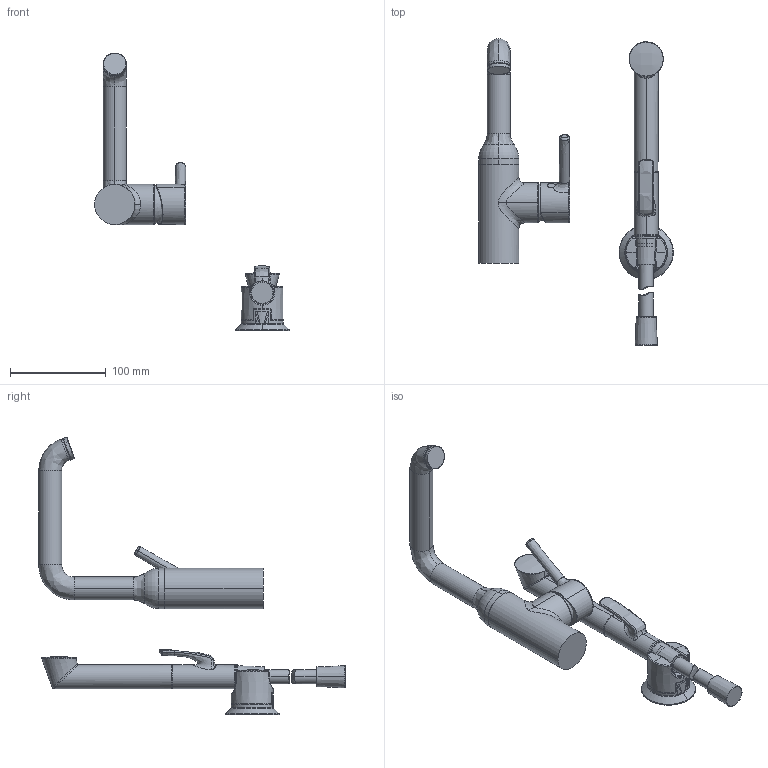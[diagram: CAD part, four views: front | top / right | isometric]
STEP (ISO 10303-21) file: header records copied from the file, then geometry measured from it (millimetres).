
FILE_DESCRIPTION (( 'STEP AP203' ), '1' );
FILE_NAME ('2615FH(2022).STEP', '2022-02-07T09:46:54', ( '' ), ( '' ), 'SwSTEP 2.0', 'SolidWorks 2016', '' );
FILE_SCHEMA (( 'CONFIG_CONTROL_DESIGN' ));
Length unit declared in the file: millimetre
Products named in the file (1): 2615FH(2022)
Bounding box: 203.13 x 319.87 x 290.06 mm (x, y, z)
Volume: 580028.3 mm3; surface area: 97489.5 mm2
Topology: 11 solids, 11 shells, 242 faces, 582 edges, 366 vertices
Faces by surface type: bspline 114, cylinder 38, torus 35, plane 30, cone 20, sphere 5
Entity records: 31660 total; most frequent: CARTESIAN_POINT 26972, ORIENTED_EDGE 1156, DIRECTION 673, EDGE_CURVE 578, VERTEX_POINT 365, AXIS2_PLACEMENT_3D 301, B_SPLINE_CURVE_WITH_KNOTS 286, EDGE_LOOP 249
